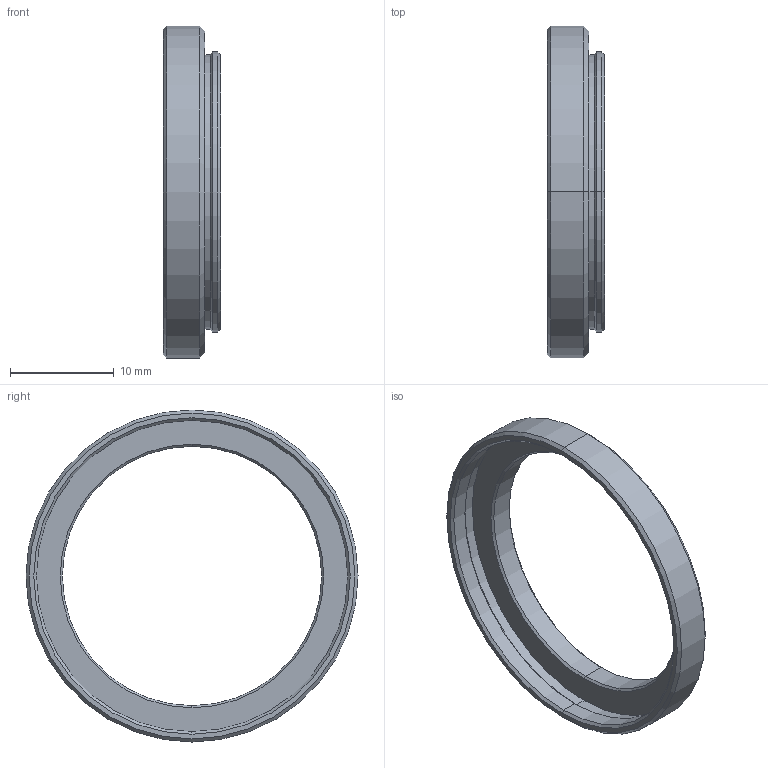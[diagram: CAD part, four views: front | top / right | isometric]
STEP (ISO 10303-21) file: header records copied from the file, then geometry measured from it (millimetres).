
FILE_DESCRIPTION (( 'STEP AP203' ), '1' );
FILE_NAME ('SV-FAD270-305.STEP', '2020-07-29T00:54:58', ( '' ), ( '' ), 'SwSTEP 2.0', 'SolidWorks 2020', '' );
FILE_SCHEMA (( 'CONFIG_CONTROL_DESIGN' ));
Length unit declared in the file: millimetre
Products named in the file (1): SV-FAD270-305
Bounding box: 5.5 x 32 x 32 mm (x, y, z)
Volume: 662.5 mm3; surface area: 1607.2 mm2
Topology: 1 solids, 1 shells, 32 faces, 64 edges, 36 vertices
Faces by surface type: cone 16, cylinder 12, plane 4
Entity records: 905 total; most frequent: DIRECTION 166, CARTESIAN_POINT 133, ORIENTED_EDGE 128, AXIS2_PLACEMENT_3D 69, EDGE_CURVE 64, CIRCLE 36, EDGE_LOOP 36, VERTEX_POINT 36
